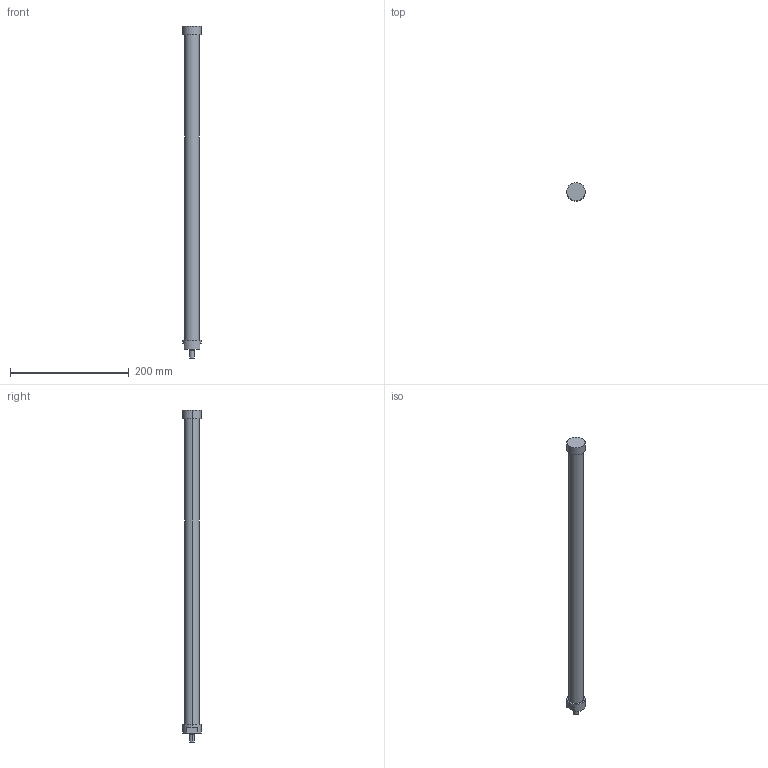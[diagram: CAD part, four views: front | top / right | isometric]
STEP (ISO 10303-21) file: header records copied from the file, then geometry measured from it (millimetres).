
FILE_DESCRIPTION(('STEP AP214'),'1');
FILE_NAME('ETT-R050M554.stp','2015-02-02T15:17:48',(' '),(' '),'Spatial InterOp 3D',' ',' ');
FILE_SCHEMA(('automotive_design'));
Length unit declared in the file: metre
Products named in the file (2): 1; 2
Bounding box: 31 x 31 x 559 mm (x, y, z)
Volume: 275133.7 mm3; surface area: 45962.6 mm2
Topology: 1 solids, 4 shells, 20 faces, 48 edges, 36 vertices
Faces by surface type: cylinder 10, plane 10
Entity records: 812 total; most frequent: DIRECTION 120, CARTESIAN_POINT 106, ORIENTED_EDGE 84, AXIS2_PLACEMENT_3D 50, EDGE_CURVE 48, VERTEX_POINT 36, CIRCLE 28, EDGE_LOOP 24
